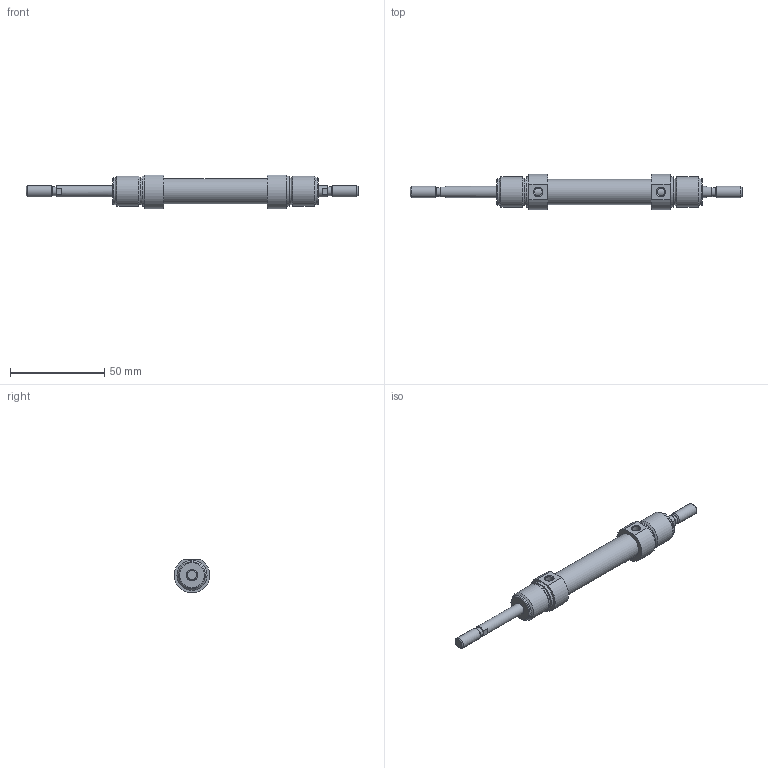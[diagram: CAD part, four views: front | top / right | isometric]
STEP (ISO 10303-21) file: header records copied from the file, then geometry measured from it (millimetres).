
FILE_DESCRIPTION( ( 'STEP AP203' ), '1' );
FILE_NAME( '//expscmdclustefs.cadenas.external/client_exchange/iodir/jobs/output/wkb68360643_no0/STEP/M101-012-0025-M__0__2_03.stp', ' ', ( ' ' ), ( ' ' ), 'PSStep 15.0.47', 'PARTsolutions', ' ' );
FILE_SCHEMA( ( 'CONFIG_CONTROL_DESIGN' ) );
Length unit declared in the file: millimetre
Products named in the file (3): M101-012-0025-M [0]; HI_M101-012-0025-M-[0]-z; HI_M101-012-0025-M-[0]-k
Assembly tree (2 placements, depth 2):
  M101-012-0025-M [0]
    HI_M101-012-0025-M-[0]-z
    HI_M101-012-0025-M-[0]-k
Bounding box: 176 x 18.73 x 17.86 mm (x, y, z)
Volume: 19194.6 mm3; surface area: 12509.3 mm2
Topology: 2 solids, 2 shells, 65 faces, 129 edges, 80 vertices
Faces by surface type: plane 26, cylinder 23, cone 14, torus 2
Full cylindrical faces by diameter (mm): 4.134 x2, 4.773 x2, 6 x6, 12 x2, 13.3 x1, 14.16 x4, 16 x4
Entity records: 1670 total; most frequent: CARTESIAN_POINT 324, DIRECTION 280, ORIENTED_EDGE 184, AXIS2_PLACEMENT_3D 128, EDGE_LOOP 116, EDGE_CURVE 92, FACE_OUTER_BOUND 88, VERTEX_POINT 76
